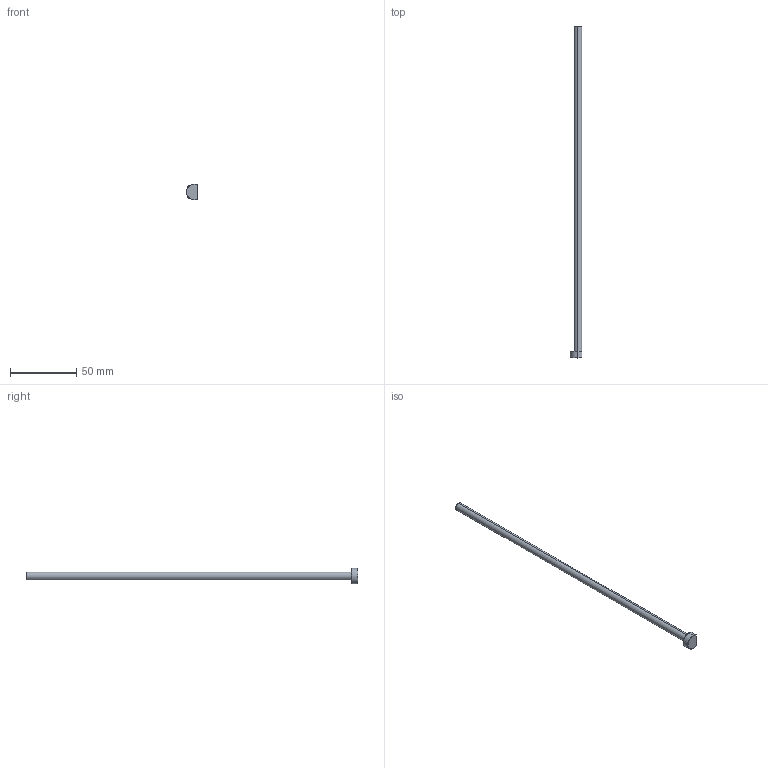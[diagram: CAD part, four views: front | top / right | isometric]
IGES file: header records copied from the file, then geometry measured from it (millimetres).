
Start section: SolidWorks IGES file using analytic representation for surfaces
Global section: file name: C:\Users\365admin\AppData\Local\Temp\InFlowConvert3DWorking\EPD06L250-K.igs; native system: SolidWorks 2019; preprocessor: SolidWorks 2019; author: 365admin; date: 220408.130855; units: millimetre
Bounding box: 9 x 250 x 12 mm (x, y, z)
Surface area: 4970.2 mm2 (no closed solid volume)
Topology: 0 solids, 0 shells, 18 faces, 195 edges, 195 vertices
Faces by surface type: revolution 11, bspline 7
